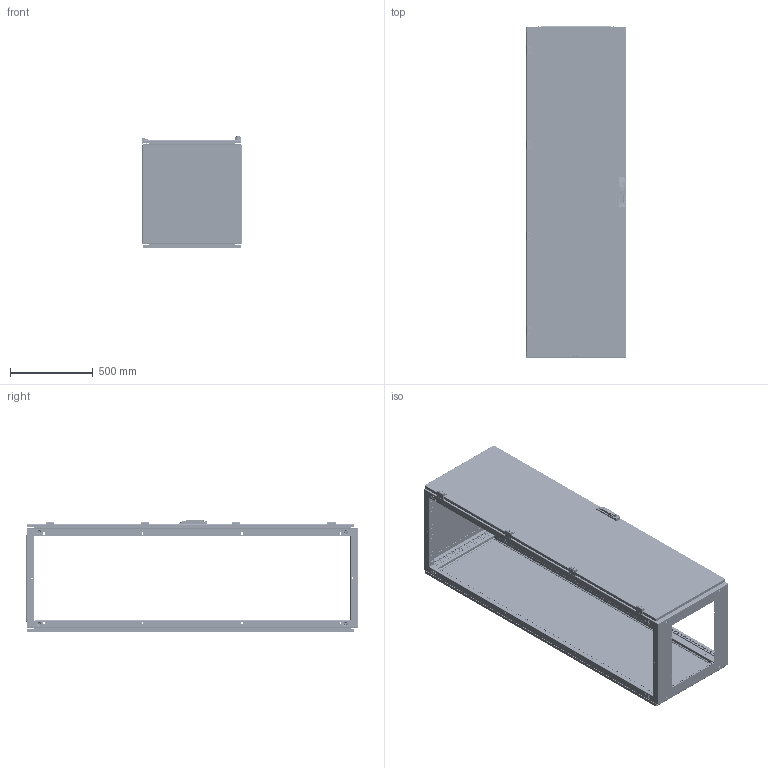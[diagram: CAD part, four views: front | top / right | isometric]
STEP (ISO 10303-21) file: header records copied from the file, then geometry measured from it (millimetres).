
FILE_DESCRIPTION (( 'STEP AP214' ), '1' );
FILE_NAME ('QA200606.step', '2011-08-10T07:06:45', ( 'Radek Veselý' ), ( 'Siemens and Partners' ), 'SwSTEP 2.0', 'SolidWorks 2006303', '' );
FILE_SCHEMA (( 'AUTOMOTIVE_DESIGN' ));
Length unit declared in the file: millimetre
Products named in the file (1): QA200606
Bounding box: 600 x 2004.5 x 676 mm (x, y, z)
Volume: 9350396.6 mm3; surface area: 10759876.3 mm2
Topology: 94 solids, 94 shells, 6791 faces, 18468 edges, 11864 vertices
Faces by surface type: plane 3656, cylinder 2571, cone 292, torus 164, sphere 60, bspline 48
Entity records: 296024 total; most frequent: CARTESIAN_POINT 39574, DIRECTION 37416, ORIENTED_EDGE 36544, EDGE_CURVE 18272, AXIS2_PLACEMENT_3D 12597, VECTOR 12222, LINE 12222, VERTEX_POINT 11848
